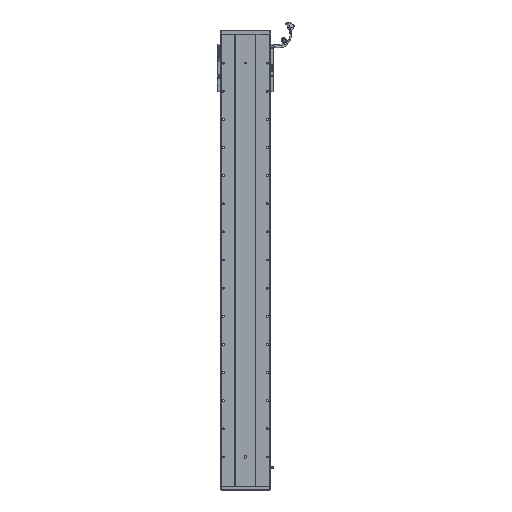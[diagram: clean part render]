
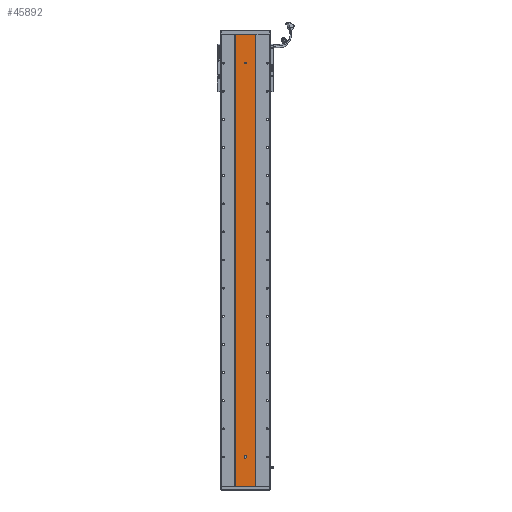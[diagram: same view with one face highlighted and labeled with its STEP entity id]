
A CAD part, front view. The second image highlights one B-rep face of the part: STEP entity #45892.
In plain terms, the highlighted planar face has unit normal (0, -1, 0).
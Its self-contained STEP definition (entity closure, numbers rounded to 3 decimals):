
#645 = EDGE_CURVE ( 'NONE', #67038, #77001, #32357, .T. ) ;
#2231 = VERTEX_POINT ( 'NONE', #72184 ) ;
#2687 = EDGE_CURVE ( 'NONE', #87603, #90743, #19726, .T. ) ;
#2963 = CARTESIAN_POINT ( 'NONE',  ( 3280.529, 1415.701, 105. ) ) ;
#3414 = DIRECTION ( 'NONE',  ( 0., -1., 0. ) ) ;
#3995 = CARTESIAN_POINT ( 'NONE',  ( 3244.748, 1415.701, 1607. ) ) ;
#4914 = VERTEX_POINT ( 'NONE', #82757 ) ;
#6021 = EDGE_CURVE ( 'NONE', #37129, #93088, #73281, .T. ) ;
#6332 = FACE_OUTER_BOUND ( 'NONE', #10663, .T. ) ;
#6949 = DIRECTION ( 'NONE',  ( 0., 0., -1. ) ) ;
#10663 = EDGE_LOOP ( 'NONE', ( #83617, #27826, #14032, #32960 ) ) ;
#11310 = AXIS2_PLACEMENT_3D ( 'NONE', #19220, #3414, #42846 ) ;
#12052 = LINE ( 'NONE', #91956, #84512 ) ;
#12076 = ORIENTED_EDGE ( 'NONE', *, *, #61292, .F. ) ;
#12555 = CARTESIAN_POINT ( 'NONE',  ( 3316.311, 1415.701, 1607. ) ) ;
#13064 = ORIENTED_EDGE ( 'NONE', *, *, #26738, .F. ) ;
#13360 = ORIENTED_EDGE ( 'NONE', *, *, #76770, .F. ) ;
#14032 = ORIENTED_EDGE ( 'NONE', *, *, #21891, .F. ) ;
#15381 = CARTESIAN_POINT ( 'NONE',  ( 3280.529, 1415.701, 1503.5 ) ) ;
#15711 = DIRECTION ( 'NONE',  ( 0., -1., 0. ) ) ;
#17092 = CARTESIAN_POINT ( 'NONE',  ( 3283.529, 1415.701, 105. ) ) ;
#18091 = DIRECTION ( 'NONE',  ( 0., 0., -1. ) ) ;
#18114 = VECTOR ( 'NONE', #81869, 1000. ) ;
#19220 = CARTESIAN_POINT ( 'NONE',  ( 3280.529, 1415.701, 102. ) ) ;
#19377 = LINE ( 'NONE', #3995, #18114 ) ;
#19726 = LINE ( 'NONE', #69677, #78553 ) ;
#20714 = VERTEX_POINT ( 'NONE', #58633 ) ;
#21891 = EDGE_CURVE ( 'NONE', #87603, #37129, #19377, .T. ) ;
#22001 = DIRECTION ( 'NONE',  ( 1., 0., 0. ) ) ;
#22315 = VECTOR ( 'NONE', #32624, 1000. ) ;
#24546 = DIRECTION ( 'NONE',  ( 0., 0., -1. ) ) ;
#25532 = ORIENTED_EDGE ( 'NONE', *, *, #46003, .F. ) ;
#26738 = EDGE_CURVE ( 'NONE', #77001, #2231, #48462, .T. ) ;
#27826 = ORIENTED_EDGE ( 'NONE', *, *, #6021, .F. ) ;
#27835 = CARTESIAN_POINT ( 'NONE',  ( 3244.748, 1415.701, 1607. ) ) ;
#28432 = CIRCLE ( 'NONE', #101546, 3. ) ;
#28876 = EDGE_CURVE ( 'NONE', #20714, #4914, #91101, .T. ) ;
#30740 = DIRECTION ( 'NONE',  ( 0., 1., 0. ) ) ;
#31010 = CARTESIAN_POINT ( 'NONE',  ( 3244.748, 1415.701, 0. ) ) ;
#32357 = CIRCLE ( 'NONE', #34208, 3. ) ;
#32624 = DIRECTION ( 'NONE',  ( 0., 0., 1. ) ) ;
#32960 = ORIENTED_EDGE ( 'NONE', *, *, #2687, .T. ) ;
#34208 = AXIS2_PLACEMENT_3D ( 'NONE', #2963, #41711, #18091 ) ;
#34247 = DIRECTION ( 'NONE',  ( 0., -1., 0. ) ) ;
#35620 = VERTEX_POINT ( 'NONE', #37153 ) ;
#37129 = VERTEX_POINT ( 'NONE', #39598 ) ;
#37153 = CARTESIAN_POINT ( 'NONE',  ( 3283.529, 1415.701, 102. ) ) ;
#37655 = VECTOR ( 'NONE', #97309, 1000. ) ;
#37668 = CARTESIAN_POINT ( 'NONE',  ( 3244.748, 1415.701, 1607. ) ) ;
#38345 = DIRECTION ( 'NONE',  ( 0., 0., 1. ) ) ;
#39598 = CARTESIAN_POINT ( 'NONE',  ( 3316.311, 1415.701, 1607. ) ) ;
#41711 = DIRECTION ( 'NONE',  ( 0., -1., 0. ) ) ;
#41787 = EDGE_LOOP ( 'NONE', ( #25532, #63177 ) ) ;
#42846 = DIRECTION ( 'NONE',  ( 0., 0., -1. ) ) ;
#43933 = EDGE_CURVE ( 'NONE', #2231, #77079, #77868, .T. ) ;
#45892 = ADVANCED_FACE ( 'NONE', ( #83802, #81208, #6332 ), #46217, .F. ) ;
#46003 = EDGE_CURVE ( 'NONE', #4914, #20714, #28432, .T. ) ;
#46217 = PLANE ( 'NONE',  #54198 ) ;
#48462 = LINE ( 'NONE', #92881, #70592 ) ;
#54198 = AXIS2_PLACEMENT_3D ( 'NONE', #37668, #30740, #38345 ) ;
#58633 = CARTESIAN_POINT ( 'NONE',  ( 3280.529, 1415.701, 1506.5 ) ) ;
#58652 = AXIS2_PLACEMENT_3D ( 'NONE', #84911, #61563, #84574 ) ;
#61292 = EDGE_CURVE ( 'NONE', #35620, #67038, #66480, .T. ) ;
#61563 = DIRECTION ( 'NONE',  ( 0., -1., 0. ) ) ;
#63177 = ORIENTED_EDGE ( 'NONE', *, *, #28876, .F. ) ;
#63520 = CARTESIAN_POINT ( 'NONE',  ( 3283.529, 1415.701, 105. ) ) ;
#64023 = CARTESIAN_POINT ( 'NONE',  ( 3316.311, 1415.701, 0. ) ) ;
#66480 = LINE ( 'NONE', #63520, #22315 ) ;
#67038 = VERTEX_POINT ( 'NONE', #17092 ) ;
#69241 = CARTESIAN_POINT ( 'NONE',  ( 3280.529, 1415.701, 99. ) ) ;
#69677 = CARTESIAN_POINT ( 'NONE',  ( 3244.748, 1415.701, 1607. ) ) ;
#70592 = VECTOR ( 'NONE', #100455, 1000. ) ;
#72184 = CARTESIAN_POINT ( 'NONE',  ( 3277.529, 1415.701, 102. ) ) ;
#72388 = CARTESIAN_POINT ( 'NONE',  ( 3280.529, 1415.701, 102. ) ) ;
#73281 = LINE ( 'NONE', #12555, #37655 ) ;
#76770 = EDGE_CURVE ( 'NONE', #77079, #35620, #101112, .T. ) ;
#76813 = CARTESIAN_POINT ( 'NONE',  ( 3277.529, 1415.701, 105. ) ) ;
#77001 = VERTEX_POINT ( 'NONE', #76813 ) ;
#77079 = VERTEX_POINT ( 'NONE', #69241 ) ;
#77868 = CIRCLE ( 'NONE', #92205, 3. ) ;
#78553 = VECTOR ( 'NONE', #6949, 1000. ) ;
#81208 = FACE_BOUND ( 'NONE', #41787, .T. ) ;
#81869 = DIRECTION ( 'NONE',  ( 1., 0., 0. ) ) ;
#82757 = CARTESIAN_POINT ( 'NONE',  ( 3280.529, 1415.701, 1500.5 ) ) ;
#83125 = ORIENTED_EDGE ( 'NONE', *, *, #645, .F. ) ;
#83617 = ORIENTED_EDGE ( 'NONE', *, *, #100603, .T. ) ;
#83802 = FACE_BOUND ( 'NONE', #94516, .T. ) ;
#84512 = VECTOR ( 'NONE', #22001, 1000. ) ;
#84574 = DIRECTION ( 'NONE',  ( 0., 0., -1. ) ) ;
#84911 = CARTESIAN_POINT ( 'NONE',  ( 3280.529, 1415.701, 1503.5 ) ) ;
#87603 = VERTEX_POINT ( 'NONE', #27835 ) ;
#90743 = VERTEX_POINT ( 'NONE', #31010 ) ;
#91101 = CIRCLE ( 'NONE', #58652, 3. ) ;
#91956 = CARTESIAN_POINT ( 'NONE',  ( 3244.748, 1415.701, 0. ) ) ;
#92205 = AXIS2_PLACEMENT_3D ( 'NONE', #72388, #34247, #96078 ) ;
#92256 = ORIENTED_EDGE ( 'NONE', *, *, #43933, .F. ) ;
#92881 = CARTESIAN_POINT ( 'NONE',  ( 3277.529, 1415.701, 105. ) ) ;
#93088 = VERTEX_POINT ( 'NONE', #64023 ) ;
#94516 = EDGE_LOOP ( 'NONE', ( #92256, #13064, #83125, #12076, #13360 ) ) ;
#96078 = DIRECTION ( 'NONE',  ( 0., 0., -1. ) ) ;
#97309 = DIRECTION ( 'NONE',  ( 0., 0., -1. ) ) ;
#100455 = DIRECTION ( 'NONE',  ( 0., 0., -1. ) ) ;
#100603 = EDGE_CURVE ( 'NONE', #90743, #93088, #12052, .T. ) ;
#101112 = CIRCLE ( 'NONE', #11310, 3. ) ;
#101546 = AXIS2_PLACEMENT_3D ( 'NONE', #15381, #15711, #24546 ) ;
